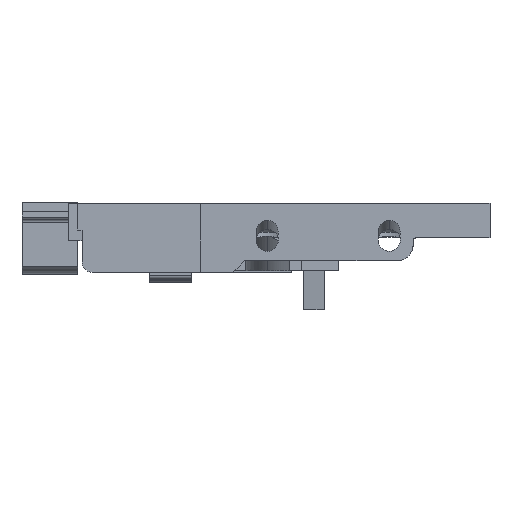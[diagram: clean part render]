
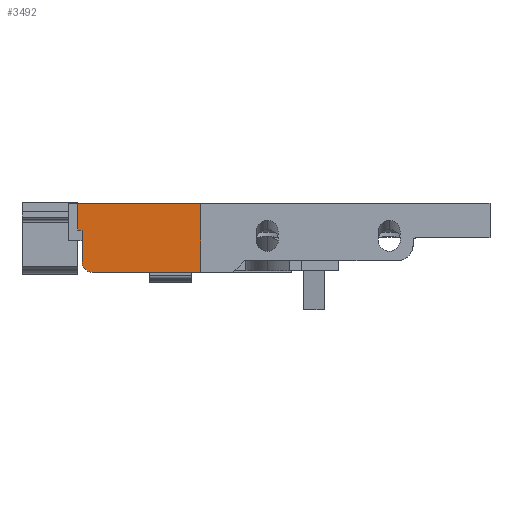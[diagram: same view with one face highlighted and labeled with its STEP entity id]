
A CAD part, front view. The second image highlights one B-rep face of the part: STEP entity #3492.
In plain terms, the highlighted planar face has unit normal (0, -1, 0).
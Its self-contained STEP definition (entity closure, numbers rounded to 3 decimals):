
#68 = ORIENTED_EDGE ( 'NONE', *, *, #4559, .T. ) ;
#69 = ORIENTED_EDGE ( 'NONE', *, *, #4554, .T. ) ;
#70 = ORIENTED_EDGE ( 'NONE', *, *, #4594, .F. ) ;
#71 = ORIENTED_EDGE ( 'NONE', *, *, #4558, .T. ) ;
#72 = ORIENTED_EDGE ( 'NONE', *, *, #4555, .T. ) ;
#73 = ORIENTED_EDGE ( 'NONE', *, *, #4614, .F. ) ;
#74 = ORIENTED_EDGE ( 'NONE', *, *, #3534, .F. ) ;
#485 = VERTEX_POINT ( 'NONE', #2529 ) ;
#486 = VERTEX_POINT ( 'NONE', #2530 ) ;
#524 = VERTEX_POINT ( 'NONE', #2568 ) ;
#541 = VERTEX_POINT ( 'NONE', #2585 ) ;
#555 = VERTEX_POINT ( 'NONE', #2599 ) ;
#577 = VERTEX_POINT ( 'NONE', #2621 ) ;
#582 = VERTEX_POINT ( 'NONE', #2626 ) ;
#801 = AXIS2_PLACEMENT_3D ( 'NONE', #4976, #4982, #4983 ) ;
#840 = VECTOR ( 'NONE', #5139, 1000. ) ;
#1029 = VECTOR ( 'NONE', #3241, 1000. ) ;
#1033 = CIRCLE ( 'NONE', #1035, 2. ) ;
#1034 = VECTOR ( 'NONE', #3250, 1000. ) ;
#1035 = AXIS2_PLACEMENT_3D ( 'NONE', #3238, #3239, #3240 ) ;
#1039 = VECTOR ( 'NONE', #3253, 1000. ) ;
#1075 = VECTOR ( 'NONE', #5429, 1000. ) ;
#1097 = VECTOR ( 'NONE', #5490, 1000. ) ;
#2268 = EDGE_LOOP ( 'NONE', ( #68, #69, #70, #71, #72, #73, #74 ) ) ;
#2529 = CARTESIAN_POINT ( 'NONE',  ( -76.92, 16.9, -5. ) ) ;
#2530 = CARTESIAN_POINT ( 'NONE',  ( -77.75, 16.9, -5. ) ) ;
#2568 = CARTESIAN_POINT ( 'NONE',  ( -74.92, 16.9, -13. ) ) ;
#2585 = CARTESIAN_POINT ( 'NONE',  ( -54.5, 16.9, -13. ) ) ;
#2599 = CARTESIAN_POINT ( 'NONE',  ( -77.75, 16.9, 0. ) ) ;
#2621 = CARTESIAN_POINT ( 'NONE',  ( -76.92, 16.9, -11. ) ) ;
#2626 = CARTESIAN_POINT ( 'NONE',  ( -54.5, 16.9, 0. ) ) ;
#3227 = CARTESIAN_POINT ( 'NONE',  ( -54.5, 16.9, 0. ) ) ;
#3235 = LINE ( 'NONE', #3249, #1034 ) ;
#3237 = LINE ( 'NONE', #3227, #1029 ) ;
#3238 = CARTESIAN_POINT ( 'NONE',  ( -74.92, 16.9, -11. ) ) ;
#3239 = DIRECTION ( 'NONE',  ( 0., -1., 0. ) ) ;
#3240 = DIRECTION ( 'NONE',  ( 1., 0., 0. ) ) ;
#3241 = DIRECTION ( 'NONE',  ( -1., 0., 0. ) ) ;
#3249 = CARTESIAN_POINT ( 'NONE',  ( -54.5, 16.9, -13. ) ) ;
#3250 = DIRECTION ( 'NONE',  ( 0., 0., 1. ) ) ;
#3251 = LINE ( 'NONE', #3252, #1039 ) ;
#3252 = CARTESIAN_POINT ( 'NONE',  ( -76.92, 16.9, -5. ) ) ;
#3253 = DIRECTION ( 'NONE',  ( 0., 0., -1. ) ) ;
#3318 = LINE ( 'NONE', #5428, #1075 ) ;
#3492 = ADVANCED_FACE ( 'NONE', ( #4980 ), #4974, .F. ) ;
#3534 = EDGE_CURVE ( 'NONE', #485, #486, #5134, .T. ) ;
#4554 = EDGE_CURVE ( 'NONE', #577, #524, #1033, .T. ) ;
#4555 = EDGE_CURVE ( 'NONE', #582, #555, #3237, .T. ) ;
#4558 = EDGE_CURVE ( 'NONE', #541, #582, #3235, .T. ) ;
#4559 = EDGE_CURVE ( 'NONE', #485, #577, #3251, .T. ) ;
#4594 = EDGE_CURVE ( 'NONE', #541, #524, #3318, .T. ) ;
#4614 = EDGE_CURVE ( 'NONE', #486, #555, #5487, .T. ) ;
#4974 = PLANE ( 'NONE',  #801 ) ;
#4976 = CARTESIAN_POINT ( 'NONE',  ( -54.5, 16.9, -13. ) ) ;
#4980 = FACE_OUTER_BOUND ( 'NONE', #2268, .T. ) ;
#4982 = DIRECTION ( 'NONE',  ( 0., 1., 0. ) ) ;
#4983 = DIRECTION ( 'NONE',  ( 1., 0., 0. ) ) ;
#5134 = LINE ( 'NONE', #5138, #840 ) ;
#5138 = CARTESIAN_POINT ( 'NONE',  ( -76.92, 16.9, -5. ) ) ;
#5139 = DIRECTION ( 'NONE',  ( -1., 0., 0. ) ) ;
#5428 = CARTESIAN_POINT ( 'NONE',  ( -54.5, 16.9, -13. ) ) ;
#5429 = DIRECTION ( 'NONE',  ( -1., 0., 0. ) ) ;
#5487 = LINE ( 'NONE', #5489, #1097 ) ;
#5489 = CARTESIAN_POINT ( 'NONE',  ( -77.75, 16.9, -13. ) ) ;
#5490 = DIRECTION ( 'NONE',  ( 0., 0., 1. ) ) ;
